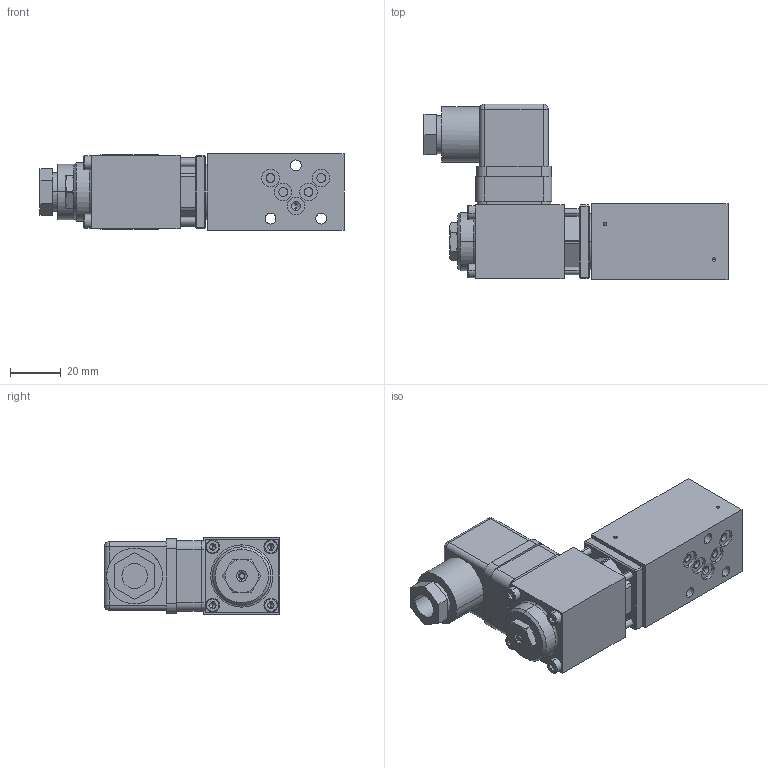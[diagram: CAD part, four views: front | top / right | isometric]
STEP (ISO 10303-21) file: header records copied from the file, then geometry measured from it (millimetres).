
FILE_DESCRIPTION (( 'STEP AP214' ), '1' );
FILE_NAME ('D.PFA03-A_B.STEP', '2017-04-19T12:46:58', ( '' ), ( '' ), 'SwSTEP 2.0', 'SolidWorks 2016', '' );
FILE_SCHEMA (( 'AUTOMOTIVE_DESIGN' ));
Length unit declared in the file: millimetre
Products named in the file (1): D.PFA03-A_B
Bounding box: 119.95 x 69.3 x 30 mm (x, y, z)
Volume: 117950.3 mm3; surface area: 32999 mm2
Topology: 12 solids, 18 shells, 808 faces, 1998 edges, 1270 vertices
Faces by surface type: plane 446, cylinder 247, cone 78, torus 22, bspline 15
Entity records: 33317 total; most frequent: CARTESIAN_POINT 5043, DIRECTION 4147, ORIENTED_EDGE 3944, EDGE_CURVE 1972, AXIS2_PLACEMENT_3D 1482, VERTEX_POINT 1270, LINE 1183, VECTOR 1183
